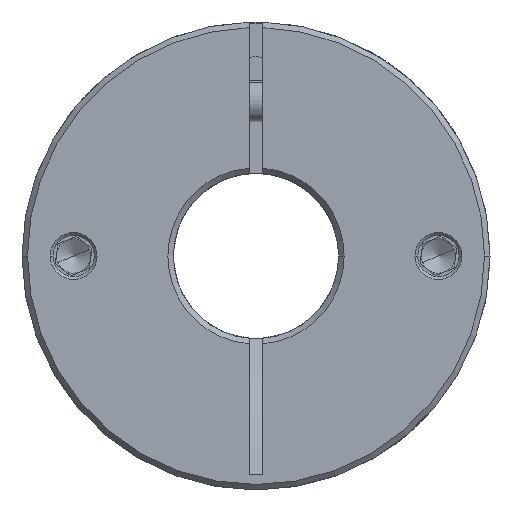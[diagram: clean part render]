
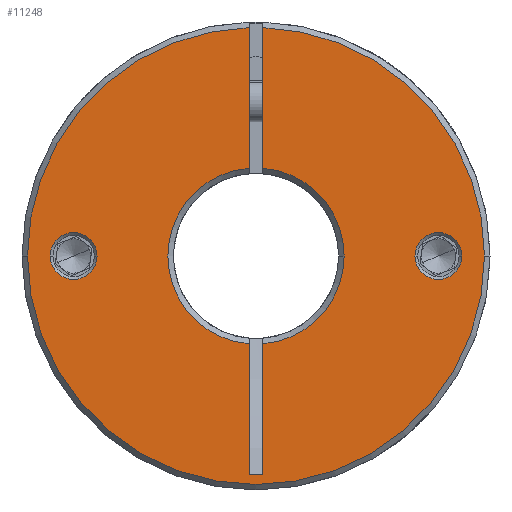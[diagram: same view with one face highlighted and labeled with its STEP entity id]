
A CAD part, front view. The second image highlights one B-rep face of the part: STEP entity #11248.
In plain terms, the highlighted planar face has unit normal (0, -1, 0).
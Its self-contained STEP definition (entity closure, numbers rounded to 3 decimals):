
#98 = CIRCLE ( 'NONE', #3839, 3.4 ) ;
#119 = CIRCLE ( 'NONE', #12970, 3.4 ) ;
#124 = AXIS2_PLACEMENT_3D ( 'NONE', #11748, #1397, #4441 ) ;
#304 = VERTEX_POINT ( 'NONE', #6184 ) ;
#330 = EDGE_CURVE ( 'NONE', #5316, #9828, #572, .T. ) ;
#496 = ORIENTED_EDGE ( 'NONE', *, *, #1937, .T. ) ;
#572 = CIRCLE ( 'NONE', #12191, 3.4 ) ;
#575 = EDGE_CURVE ( 'NONE', #304, #7499, #9112, .T. ) ;
#621 = CARTESIAN_POINT ( 'NONE',  ( -3.735, -47.045, 80.761 ) ) ;
#641 = DIRECTION ( 'NONE',  ( 1., 0., 0. ) ) ;
#689 = DIRECTION ( 'NONE',  ( 0., -1., 0. ) ) ;
#967 = PLANE ( 'NONE',  #8991 ) ;
#1016 = CARTESIAN_POINT ( 'NONE',  ( -2.735, -47.045, 68. ) ) ;
#1021 = VERTEX_POINT ( 'NONE', #11867 ) ;
#1248 = ORIENTED_EDGE ( 'NONE', *, *, #1963, .T. ) ;
#1341 = VECTOR ( 'NONE', #9921, 1000. ) ;
#1397 = DIRECTION ( 'NONE',  ( 0., 1., 0. ) ) ;
#1421 = CARTESIAN_POINT ( 'NONE',  ( 20.365, -47.045, 68. ) ) ;
#1455 = CARTESIAN_POINT ( 'NONE',  ( 10.065, -47.045, 68. ) ) ;
#1842 = DIRECTION ( 'NONE',  ( 0., 0., -1. ) ) ;
#1849 = CARTESIAN_POINT ( 'NONE',  ( -3.735, -47.045, 55.239 ) ) ;
#1937 = EDGE_CURVE ( 'NONE', #7499, #9722, #3386, .T. ) ;
#1963 = EDGE_CURVE ( 'NONE', #8650, #5944, #6783, .T. ) ;
#2018 = DIRECTION ( 'NONE',  ( 0., 0., -1. ) ) ;
#2129 = DIRECTION ( 'NONE',  ( 0., 1., 0. ) ) ;
#2171 = CIRCLE ( 'NONE', #11865, 12.8 ) ;
#2388 = EDGE_CURVE ( 'NONE', #9828, #5316, #12779, .T. ) ;
#2443 = VECTOR ( 'NONE', #2018, 1000. ) ;
#2453 = LINE ( 'NONE', #3566, #1341 ) ;
#2456 = EDGE_LOOP ( 'NONE', ( #6085, #4272 ) ) ;
#2472 = EDGE_LOOP ( 'NONE', ( #2910, #6938, #8255, #496, #12524, #5380, #12117, #8723, #11474, #11798, #1248 ) ) ;
#2580 = EDGE_CURVE ( 'NONE', #3886, #5944, #6955, .T. ) ;
#2768 = CARTESIAN_POINT ( 'NONE',  ( -2.735, -47.045, 68. ) ) ;
#2850 = EDGE_CURVE ( 'NONE', #8650, #12558, #2453, .T. ) ;
#2887 = CARTESIAN_POINT ( 'NONE',  ( -29.235, -47.045, 68. ) ) ;
#2889 = DIRECTION ( 'NONE',  ( 0., -1., 0. ) ) ;
#2910 = ORIENTED_EDGE ( 'NONE', *, *, #2580, .F. ) ;
#3100 = DIRECTION ( 'NONE',  ( 1., 0., 0. ) ) ;
#3277 = CARTESIAN_POINT ( 'NONE',  ( -1.735, -47.045, 80.761 ) ) ;
#3386 = CIRCLE ( 'NONE', #4787, 33.2 ) ;
#3480 = FACE_BOUND ( 'NONE', #6584, .T. ) ;
#3566 = CARTESIAN_POINT ( 'NONE',  ( -3.735, -47.045, 68. ) ) ;
#3812 = CARTESIAN_POINT ( 'NONE',  ( -2.735, -47.045, 68. ) ) ;
#3839 = AXIS2_PLACEMENT_3D ( 'NONE', #4080, #13276, #5777 ) ;
#3886 = VERTEX_POINT ( 'NONE', #10843 ) ;
#3985 = DIRECTION ( 'NONE',  ( 1., 0., 0. ) ) ;
#4080 = CARTESIAN_POINT ( 'NONE',  ( -29.235, -47.045, 68. ) ) ;
#4175 = CARTESIAN_POINT ( 'NONE',  ( 30.465, -47.045, 68. ) ) ;
#4209 = AXIS2_PLACEMENT_3D ( 'NONE', #7638, #12870, #5599 ) ;
#4272 = ORIENTED_EDGE ( 'NONE', *, *, #330, .T. ) ;
#4441 = DIRECTION ( 'NONE',  ( 1., 0., 0. ) ) ;
#4536 = VERTEX_POINT ( 'NONE', #1455 ) ;
#4580 = LINE ( 'NONE', #6610, #12166 ) ;
#4689 = CARTESIAN_POINT ( 'NONE',  ( -3.735, -47.045, 36.279 ) ) ;
#4787 = AXIS2_PLACEMENT_3D ( 'NONE', #2768, #689, #641 ) ;
#4922 = EDGE_CURVE ( 'NONE', #10940, #4536, #6755, .T. ) ;
#4970 = DIRECTION ( 'NONE',  ( 0., 1., 0. ) ) ;
#5055 = DIRECTION ( 'NONE',  ( 1., 0., 0. ) ) ;
#5134 = CARTESIAN_POINT ( 'NONE',  ( -2.735, -47.045, 68. ) ) ;
#5241 = VERTEX_POINT ( 'NONE', #8171 ) ;
#5316 = VERTEX_POINT ( 'NONE', #1421 ) ;
#5318 = LINE ( 'NONE', #6975, #5965 ) ;
#5356 = ORIENTED_EDGE ( 'NONE', *, *, #13153, .T. ) ;
#5380 = ORIENTED_EDGE ( 'NONE', *, *, #4922, .T. ) ;
#5521 = DIRECTION ( 'NONE',  ( 0., 0., -1. ) ) ;
#5599 = DIRECTION ( 'NONE',  ( 1., 0., 0. ) ) ;
#5728 = AXIS2_PLACEMENT_3D ( 'NONE', #9394, #8322, #9255 ) ;
#5777 = DIRECTION ( 'NONE',  ( 1., 0., 0. ) ) ;
#5944 = VERTEX_POINT ( 'NONE', #621 ) ;
#5965 = VECTOR ( 'NONE', #1842, 1000. ) ;
#6085 = ORIENTED_EDGE ( 'NONE', *, *, #2388, .T. ) ;
#6155 = DIRECTION ( 'NONE',  ( 0., -1., 0. ) ) ;
#6184 = CARTESIAN_POINT ( 'NONE',  ( -35.935, -47.045, 68. ) ) ;
#6503 = VECTOR ( 'NONE', #11629, 1000. ) ;
#6584 = EDGE_LOOP ( 'NONE', ( #7152, #5356 ) ) ;
#6610 = CARTESIAN_POINT ( 'NONE',  ( -1.735, -47.045, 68. ) ) ;
#6697 = CARTESIAN_POINT ( 'NONE',  ( -1.735, -47.045, 55.239 ) ) ;
#6734 = FACE_OUTER_BOUND ( 'NONE', #2472, .T. ) ;
#6755 = CIRCLE ( 'NONE', #124, 12.8 ) ;
#6783 = CIRCLE ( 'NONE', #11777, 12.8 ) ;
#6938 = ORIENTED_EDGE ( 'NONE', *, *, #10540, .T. ) ;
#6955 = LINE ( 'NONE', #13186, #2443 ) ;
#6965 = EDGE_CURVE ( 'NONE', #4536, #7711, #2171, .T. ) ;
#6975 = CARTESIAN_POINT ( 'NONE',  ( -1.735, -47.045, 68. ) ) ;
#7152 = ORIENTED_EDGE ( 'NONE', *, *, #8067, .T. ) ;
#7499 = VERTEX_POINT ( 'NONE', #4175 ) ;
#7638 = CARTESIAN_POINT ( 'NONE',  ( -2.735, -47.045, 68. ) ) ;
#7649 = EDGE_CURVE ( 'NONE', #7711, #1021, #4580, .T. ) ;
#7711 = VERTEX_POINT ( 'NONE', #6697 ) ;
#8067 = EDGE_CURVE ( 'NONE', #5241, #12826, #98, .T. ) ;
#8171 = CARTESIAN_POINT ( 'NONE',  ( -25.835, -47.045, 68. ) ) ;
#8255 = ORIENTED_EDGE ( 'NONE', *, *, #575, .T. ) ;
#8322 = DIRECTION ( 'NONE',  ( 0., 1., 0. ) ) ;
#8499 = EDGE_CURVE ( 'NONE', #1021, #12558, #9256, .T. ) ;
#8650 = VERTEX_POINT ( 'NONE', #1849 ) ;
#8681 = CARTESIAN_POINT ( 'NONE',  ( -3.735, -47.045, 36.279 ) ) ;
#8723 = ORIENTED_EDGE ( 'NONE', *, *, #7649, .T. ) ;
#8991 = AXIS2_PLACEMENT_3D ( 'NONE', #1016, #6155, #3100 ) ;
#9029 = CIRCLE ( 'NONE', #4209, 33.2 ) ;
#9031 = CARTESIAN_POINT ( 'NONE',  ( -32.635, -47.045, 68. ) ) ;
#9053 = CARTESIAN_POINT ( 'NONE',  ( -2.735, -47.045, 68. ) ) ;
#9112 = CIRCLE ( 'NONE', #12813, 33.2 ) ;
#9166 = CARTESIAN_POINT ( 'NONE',  ( 27.165, -47.045, 68. ) ) ;
#9255 = DIRECTION ( 'NONE',  ( 1., 0., 0. ) ) ;
#9256 = LINE ( 'NONE', #8681, #6503 ) ;
#9372 = DIRECTION ( 'NONE',  ( 1., 0., 0. ) ) ;
#9394 = CARTESIAN_POINT ( 'NONE',  ( 23.765, -47.045, 68. ) ) ;
#9636 = EDGE_CURVE ( 'NONE', #9722, #10940, #5318, .T. ) ;
#9722 = VERTEX_POINT ( 'NONE', #11053 ) ;
#9828 = VERTEX_POINT ( 'NONE', #9166 ) ;
#9921 = DIRECTION ( 'NONE',  ( 0., 0., -1. ) ) ;
#9970 = DIRECTION ( 'NONE',  ( 0., 1., 0. ) ) ;
#10540 = EDGE_CURVE ( 'NONE', #3886, #304, #9029, .T. ) ;
#10843 = CARTESIAN_POINT ( 'NONE',  ( -3.735, -47.045, 101.185 ) ) ;
#10940 = VERTEX_POINT ( 'NONE', #3277 ) ;
#11053 = CARTESIAN_POINT ( 'NONE',  ( -1.735, -47.045, 101.185 ) ) ;
#11248 = ADVANCED_FACE ( 'NONE', ( #12706, #3480, #6734 ), #967, .T. ) ;
#11390 = DIRECTION ( 'NONE',  ( 1., 0., 0. ) ) ;
#11474 = ORIENTED_EDGE ( 'NONE', *, *, #8499, .T. ) ;
#11502 = CARTESIAN_POINT ( 'NONE',  ( 23.765, -47.045, 68. ) ) ;
#11629 = DIRECTION ( 'NONE',  ( -1., 0., 0. ) ) ;
#11748 = CARTESIAN_POINT ( 'NONE',  ( -2.735, -47.045, 68. ) ) ;
#11777 = AXIS2_PLACEMENT_3D ( 'NONE', #3812, #9970, #11895 ) ;
#11798 = ORIENTED_EDGE ( 'NONE', *, *, #2850, .F. ) ;
#11865 = AXIS2_PLACEMENT_3D ( 'NONE', #5134, #12451, #11390 ) ;
#11867 = CARTESIAN_POINT ( 'NONE',  ( -1.735, -47.045, 36.279 ) ) ;
#11895 = DIRECTION ( 'NONE',  ( 1., 0., 0. ) ) ;
#12117 = ORIENTED_EDGE ( 'NONE', *, *, #6965, .T. ) ;
#12166 = VECTOR ( 'NONE', #5521, 1000. ) ;
#12191 = AXIS2_PLACEMENT_3D ( 'NONE', #11502, #2129, #9372 ) ;
#12451 = DIRECTION ( 'NONE',  ( 0., 1., 0. ) ) ;
#12524 = ORIENTED_EDGE ( 'NONE', *, *, #9636, .T. ) ;
#12558 = VERTEX_POINT ( 'NONE', #4689 ) ;
#12706 = FACE_BOUND ( 'NONE', #2456, .T. ) ;
#12779 = CIRCLE ( 'NONE', #5728, 3.4 ) ;
#12813 = AXIS2_PLACEMENT_3D ( 'NONE', #9053, #2889, #3985 ) ;
#12826 = VERTEX_POINT ( 'NONE', #9031 ) ;
#12870 = DIRECTION ( 'NONE',  ( 0., -1., 0. ) ) ;
#12970 = AXIS2_PLACEMENT_3D ( 'NONE', #2887, #4970, #5055 ) ;
#13153 = EDGE_CURVE ( 'NONE', #12826, #5241, #119, .T. ) ;
#13186 = CARTESIAN_POINT ( 'NONE',  ( -3.735, -47.045, 68. ) ) ;
#13276 = DIRECTION ( 'NONE',  ( 0., 1., 0. ) ) ;
